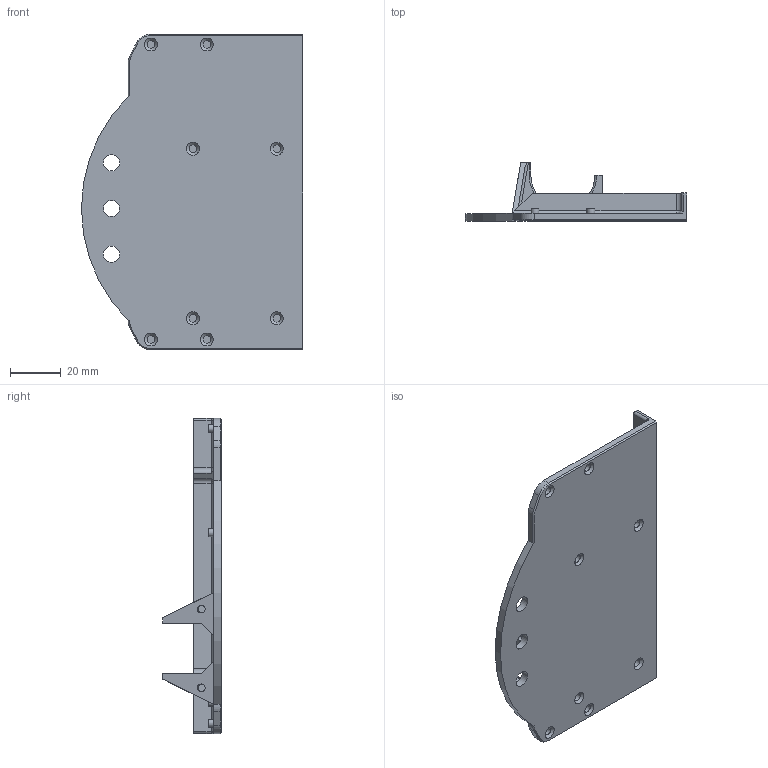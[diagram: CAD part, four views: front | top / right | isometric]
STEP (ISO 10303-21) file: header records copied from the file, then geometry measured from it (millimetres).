
FILE_DESCRIPTION(('STEP AP242'), '1');
FILE_NAME('Îñíîâà øàññè', '', ('UNSPECIFIED'), ('UNSPECIFIED'), 'C3D Converter', 'C3D Toolkit', '');
FILE_SCHEMA(('AP242_MANAGED_MODEL_BASED_3D_ENGINEERING_MIM_LF { 1 0 10303 442 1 1 4 }'));
Length unit declared in the file: millimetre
Products named in the file (1): Основа шасси.ipt
Bounding box: 86.92 x 23.1 x 124 mm (x, y, z)
Volume: 32795 mm3; surface area: 25557.8 mm2
Topology: 9 solids, 9 shells, 141 faces, 342 edges, 219 vertices
Faces by surface type: plane 79, cylinder 42, cone 16, torus 4
Full cylindrical faces by diameter (mm): 3.1 x18, 6.4 x3
Entity records: 4109 total; most frequent: CARTESIAN_POINT 704, DIRECTION 701, ORIENTED_EDGE 626, EDGE_CURVE 313, AXIS2_PLACEMENT_3D 256, VERTEX_POINT 219, EDGE_LOOP 196, LINE 189
